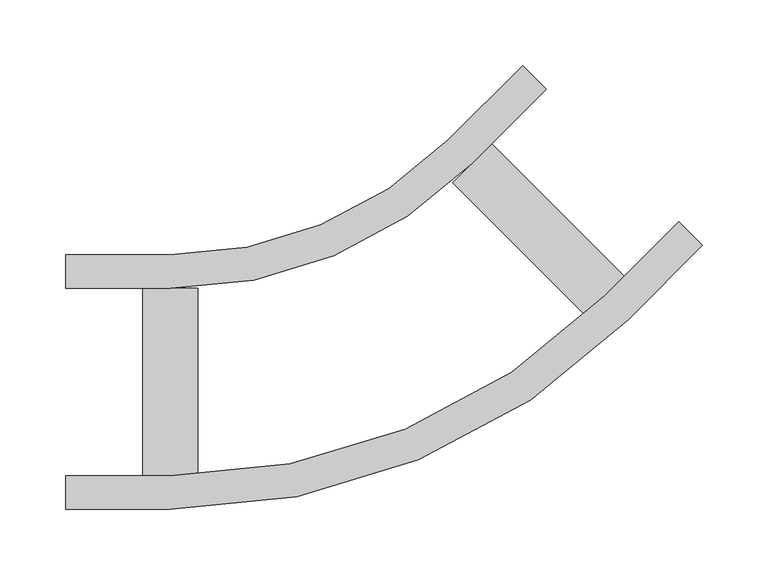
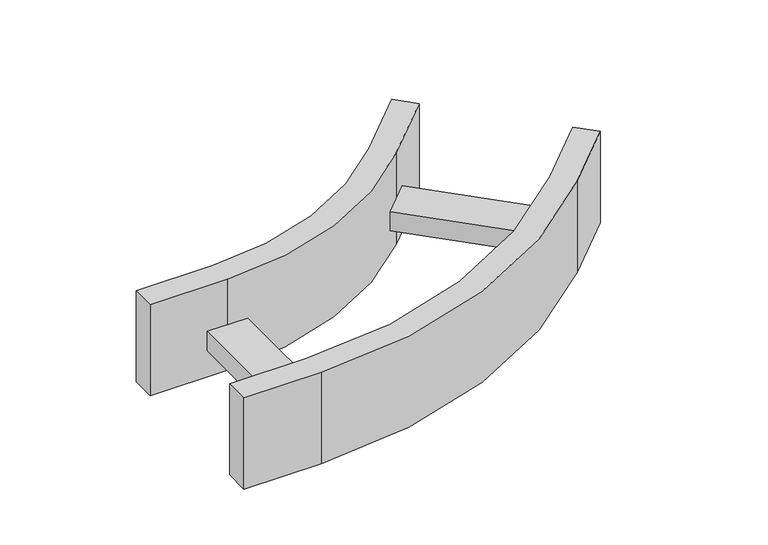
"""IFC4 building model written with IfcOpenShell, lengths in millimetres: cable carrier fitting geometry, Legrand_CableLadder_Swifts_Topaz_FlatBend-13 : Hot Dip Galvanised (after manufacture)."""

from ifc_helpers import new_model, si_unit, point, frame, frame_2d, origin, place, context, project, spatial, polyline, circle_curve, trimmed, segment, composite_curve, outline, extrude, source, transform, mapped, element, save


def cable_carrier_fitting_8960ecd3(model_context):
    return source(origin(), model_context, "Body", "SweptSolid", [
        extrude(outline(polyline([(-185.4427843, -71.5), (-185.4427843, 71.5), (-143.4427843, 71.5), (-143.4427843, -71.5), (-185.4427843, -71.5)])), frame((0.0, 0.0, -21.0), z_axis=(0.0, 0.0, 1.0), x_axis=(1.0, 0.0, 0.0)), (0.0, 0.0, 1.0), 21.0),
        extrude(outline(polyline([(151.9875003, 50.8712306), (50.8712306, 151.9875003), (80.5697154, 181.6859851), (181.6859851, 80.5697154), (151.9875003, 50.8712306)])), frame((0.0, 0.0, -21.0), z_axis=(0.0, 0.0, 1.0), x_axis=(1.0, 0.0, 0.0)), (0.0, 0.0, 1.0), 21.0),
        extrude(outline(composite_curve([segment(polyline([(-244.4427843, -97.0), (-244.4427843, -71.5), (-164.4427843, -71.5)]), True, "CONTINUOUS"), segment(trimmed(circle_curve(frame_2d((-164.4427843, 397.0)), 468.5), [point((-164.4427843, -71.5))], [point((166.8367427, 65.720473))], True, "CARTESIAN"), True, "CONTINUOUS"), segment(polyline([(166.8367427, 65.720473), (223.4052852, 122.2890155), (241.4365081, 104.2577926), (184.8679656, 47.6892501)]), True, "CONTINUOUS"), segment(trimmed(circle_curve(frame_2d((-164.4427843, 397.0)), 494.0), [point((184.8679656, 47.6892501))], [point((-164.4427843, -97.0))], False, "CARTESIAN"), True, "CONTINUOUS"), segment(polyline([(-164.4427843, -97.0), (-244.4427843, -97.0)]), True, "CONTINUOUS")], self_intersect=False)), frame((0.0, 0.0, -50.0), z_axis=(0.0, 0.0, 1.0), x_axis=(1.0, 0.0, 0.0)), (0.0, 0.0, 1.0), 100.0),
        extrude(outline(composite_curve([segment(polyline([(-244.4427843, 71.5), (-244.4427843, 97.0), (-164.4427843, 97.0)]), True, "CONTINUOUS"), segment(trimmed(circle_curve(frame_2d((-164.4427843, 397.0)), 300.0), [point((-164.4427843, 97.0))], [point((47.6892501, 184.8679656))], True, "CARTESIAN"), True, "CONTINUOUS"), segment(polyline([(47.6892501, 184.8679656), (104.2577926, 241.4365081), (122.2890155, 223.4052852), (65.720473, 166.8367427)]), True, "CONTINUOUS"), segment(trimmed(circle_curve(frame_2d((-164.4427843, 397.0)), 325.5), [point((65.720473, 166.8367427))], [point((-164.4427843, 71.5))], False, "CARTESIAN"), True, "CONTINUOUS"), segment(polyline([(-164.4427843, 71.5), (-244.4427843, 71.5)]), True, "CONTINUOUS")], self_intersect=False)), frame((0.0, 0.0, -50.0), z_axis=(0.0, 0.0, 1.0), x_axis=(1.0, 0.0, 0.0)), (0.0, 0.0, 1.0), 100.0),
    ])


if __name__ == "__main__":
    model = new_model("IFC4")
    model_context = context("Model", 3, world=origin())
    ifc_project = project(units=[si_unit("LENGTHUNIT", "METRE", prefix="MILLI")], contexts=[model_context])
    site = spatial("IfcSite", under=ifc_project)
    building = spatial("IfcBuilding", under=site)
    placement = place(None, origin())
    cable_carrier_fitting_shape = cable_carrier_fitting_8960ecd3(model_context)
    element("IfcCableCarrierFitting", 1, ObjectType="Legrand_CableLadder_Swifts_Topaz_FlatBend-13 : Hot Dip Galvanised (after manufacture)", at=placement, inside=building, context=model_context, shape_type="MappedRepresentation", body=[
        mapped(cable_carrier_fitting_shape, transform((0.0, 0.0, 0.0), x_axis=(1.0, 0.0, 0.0), y_axis=(0.0, 1.0, 0.0), z_axis=(0.0, 0.0, 1.0))),
    ])
    save(model, "model.ifc")
